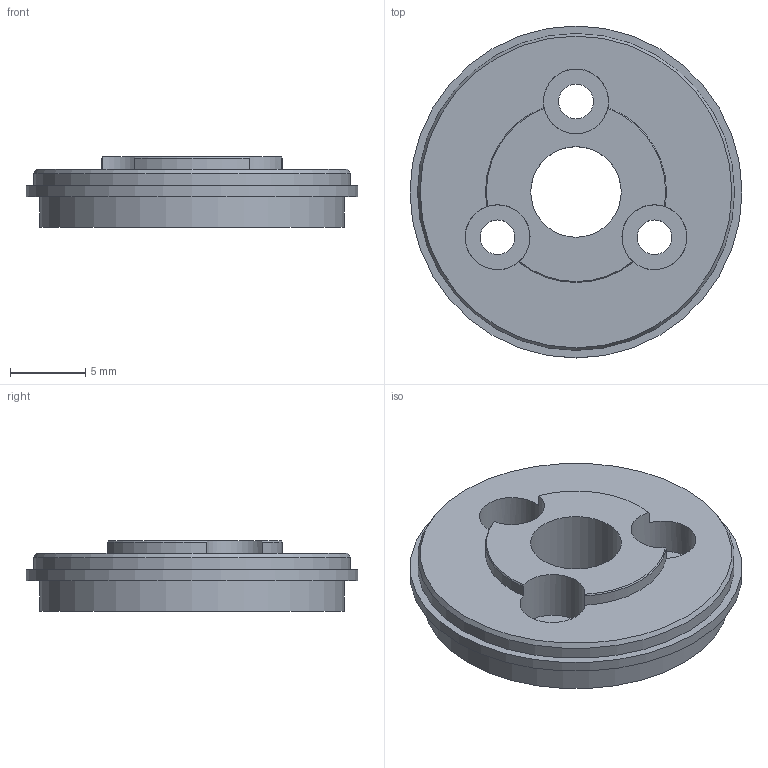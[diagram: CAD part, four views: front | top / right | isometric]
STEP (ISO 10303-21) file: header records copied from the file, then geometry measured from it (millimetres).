
FILE_DESCRIPTION(/* description */ (''),/* implementation_level */ '2;1');
FILE_NAME(/* name */ '22-GPT_flange_e.stp',/* time_stamp */ '2019-07-23T09:14:52+02:00',/* author */ ('DR. FRITZ FAULHABER GmbH & Co. KG'),/* organization */ ('DR. FRITZ FAULHABER GmbH & Co. KG'),/* preprocessor_version */ 'ST-DEVELOPER v16.7',/* originating_system */ 'SIEMENS PLM Software NX 12.0',/* authorisation */ '');
FILE_SCHEMA (('AUTOMOTIVE_DESIGN { 1 0 10303 214 3 1 1 1 }'));
Length unit declared in the file: millimetre
Products named in the file (1): F0011317900-D-416.4923.07
Bounding box: 22 x 22 x 4.7 mm (x, y, z)
Volume: 1124 mm3; surface area: 1173.2 mm2
Topology: 1 solids, 1 shells, 26 faces, 64 edges, 43 vertices
Faces by surface type: cylinder 13, plane 8, cone 5
Full cylindrical faces by diameter (mm): 2.3 x3, 4.3 x3, 6 x1, 20.2 x1, 21 x1, 22 x1
Entity records: 722 total; most frequent: DIRECTION 128, CARTESIAN_POINT 128, ORIENTED_EDGE 92, AXIS2_PLACEMENT_3D 61, EDGE_LOOP 49, EDGE_CURVE 46, FACE_BOUND 43, VERTEX_POINT 37
